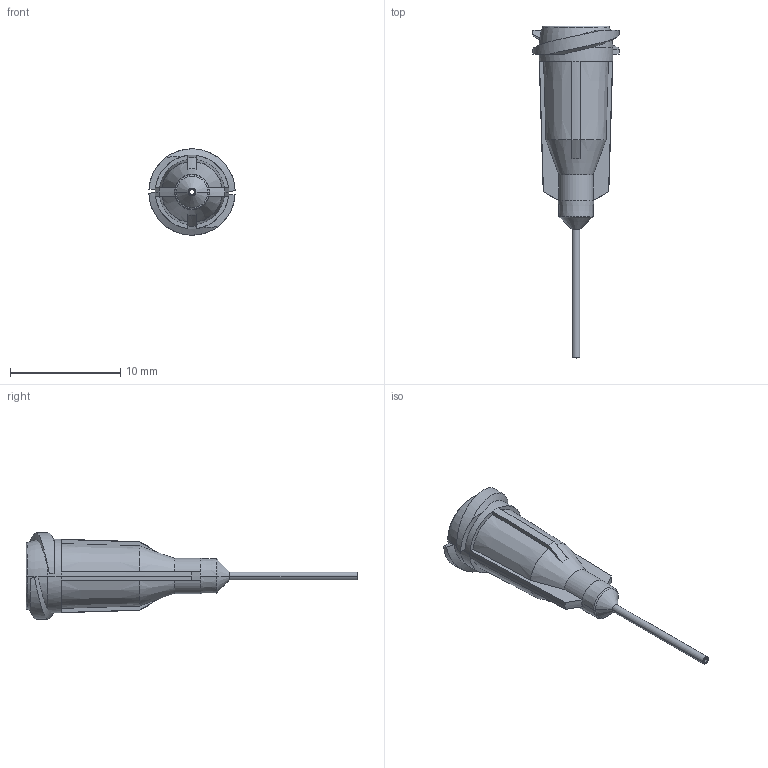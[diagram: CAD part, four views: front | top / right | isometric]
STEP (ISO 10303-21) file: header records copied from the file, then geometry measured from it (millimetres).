
FILE_DESCRIPTION (( 'STEP AP214' ), '1' );
FILE_NAME ('NORDSONEFD-7018258 TIP 22GA GP 016 X 1-2 BL.STEP', '2019-01-17T19:11:43', ( '' ), ( '' ), 'SwSTEP 2.0', 'SolidWorks 2018', '' );
FILE_SCHEMA (( 'AUTOMOTIVE_DESIGN' ));
Length unit declared in the file: inch
Products named in the file (1): NORDSONEFD-7018258 TIP 22GA GP 016 X 1-2 BL
Bounding box: 7.82 x 30.07 x 7.82 mm (x, y, z)
Volume: 267.5 mm3; surface area: 583.4 mm2
Topology: 1 solids, 1 shells, 98 faces, 228 edges, 136 vertices
Faces by surface type: plane 26, torus 22, cone 22, cylinder 16, bspline 12
Entity records: 3307 total; most frequent: CARTESIAN_POINT 997, DIRECTION 460, ORIENTED_EDGE 456, EDGE_CURVE 228, AXIS2_PLACEMENT_3D 201, VERTEX_POINT 136, CIRCLE 114, EDGE_LOOP 104
